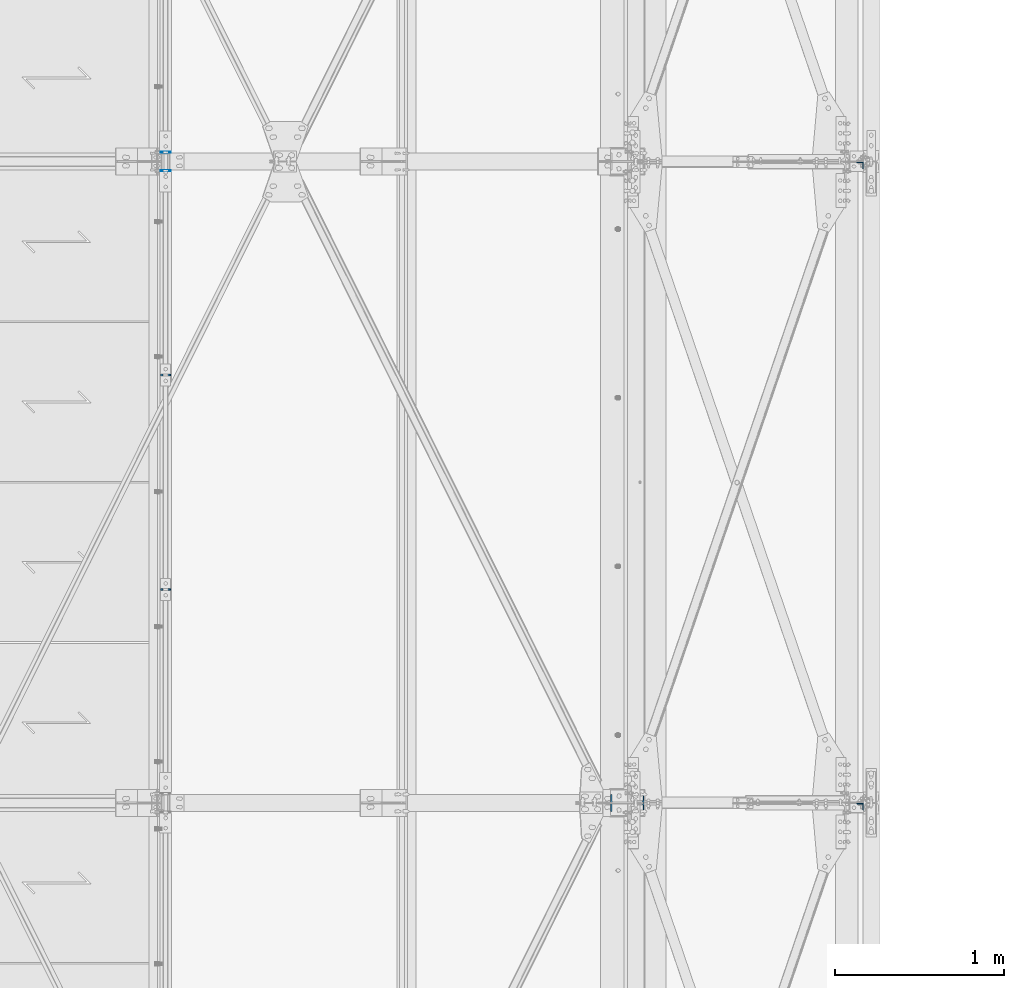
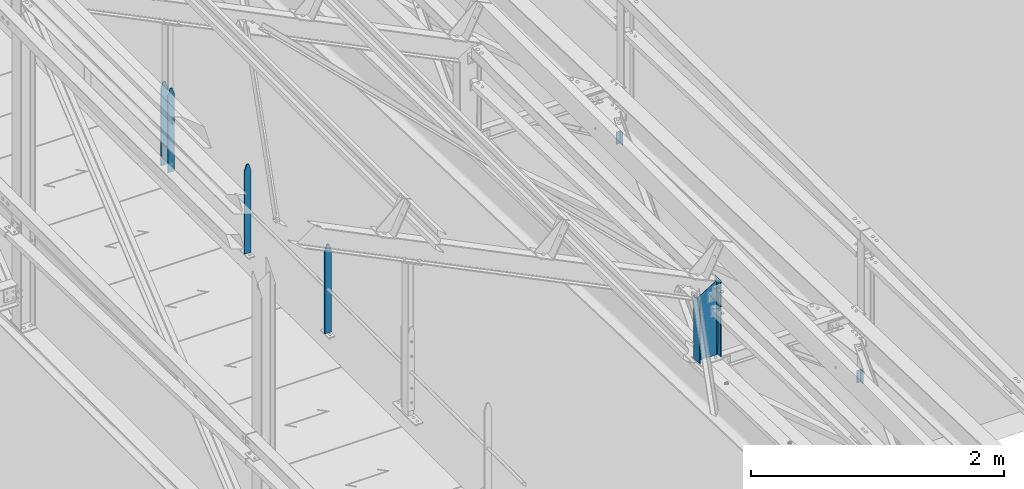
# One storey, part 38 of 362: 7 columns, 5 elements without a shape of their own.
"""IFC2X3 building model written with IfcOpenShell, lengths in millimetres."""

from ifc_helpers import new_model, si_unit, frame, origin_with_axes, origin_2d_with_axis, place, context, subcontext, project, spatial, rectangle, i_section, l_section, extrude, clip, halfspace, material, type_object, element, aggregate, save


model = new_model("IFC2X3")

# Units and contexts
model_context = context("Model", 3, precision=1e-05, world=origin_with_axes())
body_context = subcontext(model_context, "Body", "Model", "MODEL_VIEW")
ifc_project = project(units=[si_unit("LENGTHUNIT", "METRE", prefix="MILLI"), si_unit("AREAUNIT", "SQUARE_METRE"), si_unit("VOLUMEUNIT", "CUBIC_METRE"), si_unit("MASSUNIT", "GRAM", prefix="KILO"), si_unit("TIMEUNIT", "SECOND"), si_unit("PLANEANGLEUNIT", "RADIAN"), si_unit("SOLIDANGLEUNIT", "STERADIAN"), si_unit("THERMODYNAMICTEMPERATUREUNIT", "DEGREE_CELSIUS"), si_unit("LUMINOUSINTENSITYUNIT", "LUMEN")], contexts=[model_context])

# Site, building, storey
site_placement = place(None, origin_with_axes())
site = spatial("IfcSite", under=ifc_project, at=site_placement, Name="Undefined", CompositionType="ELEMENT")
building_placement = place(site_placement, origin_with_axes())
building = spatial("IfcBuilding", under=site, at=building_placement, Name="Undefined", CompositionType="ELEMENT")
storey_placement = place(building_placement, origin_with_axes())
storey = spatial("IfcBuildingStorey", under=building, at=storey_placement, Name="Undefined", CompositionType="ELEMENT", Elevation=0.0)

# Assembly, columns
assembly_1_placement = place(storey_placement, origin_with_axes())
assembly_1 = element("IfcElementAssembly", 1, at=assembly_1_placement, inside=storey, Name="MAIN COURANTE", AssemblyPlace="NOTDEFINED", PredefinedType="NOTDEFINED")
ifc_material_1 = material(Name="Undefined/S235-E24")
column_type_1 = type_object("IfcColumnType", Name="PL10*60", PredefinedType="NOTDEFINED")
column_1_placement = place(assembly_1_placement, frame((35593.9917177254, 8865.00343196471, 8250.00000282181), z_axis=(0.0, 0.0, 1.0), x_axis=(1.0, 0.0, 0.0)))
column_1 = element("IfcColumn", 2, at=column_1_placement, type_object=column_type_1, material=ifc_material_1, Name="MONTANT", ObjectType="PL10*60", context=body_context, shape_type="Clipping", body=[
    clip(clip(extrude(rectangle(XDim=10.0, YDim=60.0, at=origin_2d_with_axis()), frame((0.0, 0.0, 857.599997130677), z_axis=(0.0, 0.0, -1.0), x_axis=(0.0, 1.0, 0.0)), (0.0, 0.0, 1.0), 857.6), halfspace(frame((30.0000001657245, -5.000000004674, 797.599997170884), z_axis=(0.948683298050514, 0.0, 0.316227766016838), x_axis=(-0.316227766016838, 0.0, 0.948683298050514)), False)), halfspace(frame((-29.9999998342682, 4.99999999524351, 797.599997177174), z_axis=(-0.948683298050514, 0.0, 0.316227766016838), x_axis=(0.316227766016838, 0.0, 0.948683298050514)), False)),
])
column_2_placement = place(assembly_1_placement, frame((35593.99171878, 10135.0034319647, 8250.00000195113), z_axis=(0.0, 0.0, 1.0), x_axis=(1.0, 0.0, 0.0)))
column_2 = element("IfcColumn", 3, at=column_2_placement, type_object=column_type_1, material=ifc_material_1, Name="MONTANT", ObjectType="PL10*60", context=body_context, shape_type="Clipping", body=[
    clip(clip(extrude(rectangle(XDim=10.0, YDim=60.0, at=origin_2d_with_axis()), frame((0.0, 0.0, 857.599997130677), z_axis=(0.0, 0.0, -1.0), x_axis=(0.0, 1.0, 0.0)), (0.0, 0.0, 1.0), 857.6), halfspace(frame((30.0000001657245, -5.000000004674, 797.599997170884), z_axis=(0.948683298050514, 0.0, 0.316227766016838), x_axis=(-0.316227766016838, 0.0, 0.948683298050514)), False)), halfspace(frame((-29.9999998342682, 4.99999999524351, 797.599997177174), z_axis=(-0.948683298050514, 0.0, 0.316227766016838), x_axis=(0.316227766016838, 0.0, 0.948683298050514)), False)),
])

# Assembly, column
assembly_2_placement = place(storey_placement, origin_with_axes())
assembly_2 = element("IfcElementAssembly", 4, at=assembly_2_placement, inside=storey, Name="MAIN COURANTE", AssemblyPlace="NOTDEFINED", PredefinedType="NOTDEFINED")
column_type_2 = type_object("IfcColumnType", Name="PL5*60", PredefinedType="NOTDEFINED")
column_3_placement = place(assembly_2_placement, frame((35593.9917197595, 11454.9999937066, 8300.00000102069), z_axis=(0.0, 0.0, 1.0), x_axis=(1.0, 0.0, 0.0)))
column_3 = element("IfcColumn", 5, at=column_3_placement, type_object=column_type_2, material=ifc_material_1, Name="MONTANT", ObjectType="PL5*60", context=body_context, shape_type="Clipping", body=[
    clip(clip(extrude(rectangle(XDim=5.0, YDim=60.0, at=origin_2d_with_axis()), frame((0.0, 0.0, 807.599997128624), z_axis=(0.0, 0.0, -1.0), x_axis=(0.0, 1.0, 0.0)), (0.0, 0.0, 1.0), 807.6), halfspace(frame((29.9999999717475, -5.00000000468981, 747.599997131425), z_axis=(0.948683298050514, 0.0, 0.316227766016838), x_axis=(-0.316227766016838, 0.0, 0.948683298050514)), False)), halfspace(frame((-30.000000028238, 4.99999999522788, 747.599997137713), z_axis=(-0.948683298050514, 0.0, 0.316227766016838), x_axis=(0.316227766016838, 0.0, 0.948683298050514)), False)),
])
aggregate(assembly_2, [column_3])

# Column
column_4_placement = place(assembly_1_placement, frame((35593.9917196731, 11344.9999937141, 8300.00000109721), z_axis=(0.0, 0.0, 1.0), x_axis=(1.0, 0.0, 0.0)))
column_4 = element("IfcColumn", 6, at=column_4_placement, type_object=column_type_2, material=ifc_material_1, Name="MONTANT", ObjectType="PL5*60", context=body_context, shape_type="Clipping", body=[
    clip(clip(extrude(rectangle(XDim=5.0, YDim=60.0, at=origin_2d_with_axis()), frame((0.0, 0.0, 807.599997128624), z_axis=(0.0, 0.0, -1.0), x_axis=(0.0, 1.0, 0.0)), (0.0, 0.0, 1.0), 807.6), halfspace(frame((29.9999999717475, -5.00000000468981, 747.599997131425), z_axis=(0.948683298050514, 0.0, 0.316227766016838), x_axis=(-0.316227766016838, 0.0, 0.948683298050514)), False)), halfspace(frame((-30.000000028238, 4.99999999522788, 747.599997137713), z_axis=(-0.948683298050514, 0.0, 0.316227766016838), x_axis=(0.316227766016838, 0.0, 0.948683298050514)), False)),
])

aggregate(assembly_1, [column_1, column_4, column_2])

# Assembly, column
assembly_3_placement = place(storey_placement, origin_with_axes())
assembly_3 = element("IfcElementAssembly", 7, at=assembly_3_placement, inside=storey, AssemblyPlace="NOTDEFINED", PredefinedType="NOTDEFINED")
column_type_3 = type_object("IfcColumnType", Name="L40*4", PredefinedType="NOTDEFINED")
column_5_placement = place(assembly_3_placement, frame((39709.0000003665, 11376.9999999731, 7100.00000925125), z_axis=(0.0, 0.0, 1.0), x_axis=(-1.0, 0.0, 0.0)))
column_5 = element("IfcColumn", 8, at=column_5_placement, type_object=column_type_3, material=ifc_material_1, Name="ATTACHE", ObjectType="L40*4", context=body_context, shape_type="SweptSolid", body=[
    extrude(l_section(Depth=40.0, Width=40.0, Thickness=4.0, FilletRadius=6.0, EdgeRadius=3.0, at=origin_2d_with_axis()), frame((0.0, 0.0, 120.0), z_axis=(0.0, 0.0, -1.0), x_axis=(0.0, 1.0, 0.0)), (0.0, 0.0, 1.0), 120.0),
])
aggregate(assembly_3, [column_5])

assembly_4_placement = place(storey_placement, origin_with_axes())
assembly_4 = element("IfcElementAssembly", 9, at=assembly_4_placement, inside=storey, AssemblyPlace="NOTDEFINED", PredefinedType="NOTDEFINED")
column_6_placement = place(assembly_4_placement, frame((39709.0000003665, 7577.0, 7100.00000925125), z_axis=(0.0, 0.0, 1.0), x_axis=(-1.0, 0.0, 0.0)))
column_6 = element("IfcColumn", 10, at=column_6_placement, type_object=column_type_3, material=ifc_material_1, Name="ATTACHE", ObjectType="L40*4", context=body_context, shape_type="SweptSolid", body=[
    extrude(l_section(Depth=40.0, Width=40.0, Thickness=4.0, FilletRadius=6.0, EdgeRadius=3.0, at=origin_2d_with_axis()), frame((0.0, 0.0, 120.0), z_axis=(0.0, 0.0, -1.0), x_axis=(0.0, 1.0, 0.0)), (0.0, 0.0, 1.0), 120.0),
])
aggregate(assembly_4, [column_6])

assembly_5_placement = place(storey_placement, origin_with_axes())
assembly_5 = element("IfcElementAssembly", 11, at=assembly_5_placement, inside=storey, Name="TRAVERSE SHED", AssemblyPlace="NOTDEFINED", PredefinedType="NOTDEFINED")
ifc_material_2 = material(Name="Undefined/S275-E28")
column_type_4 = type_object("IfcColumnType", Name="IPE200", PredefinedType="NOTDEFINED")
column_7_placement = place(assembly_5_placement, frame((38330.0, 7600.0, 7811.16133145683), z_axis=(0.0, 0.0, 1.0), x_axis=(-1.0, 0.0, 0.0)))
column_7 = element("IfcColumn", 12, at=column_7_placement, type_object=column_type_4, material=ifc_material_2, Name="TRAVERSE SHED", ObjectType="IPE200", context=body_context, shape_type="Clipping", body=[
    clip(clip(extrude(i_section(OverallWidth=100.0, OverallDepth=200.0, WebThickness=5.599999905, FlangeThickness=8.5, FilletRadius=12.0, at=origin_2d_with_axis()), frame((0.0, 0.0, 741.048365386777), z_axis=(0.0, 0.0, -1.0), x_axis=(0.0, 1.0, 0.0)), (0.0, 0.0, 1.0), 795.52), halfspace(frame((100.0, 7600.0, 614.305572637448), z_axis=(-0.528573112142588, 0.0, -0.848887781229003), x_axis=(0.0, 1.0, 0.0)), True)), halfspace(frame((0.0, -64.1536601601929, 7.98881895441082), z_axis=(0.0, 0.031410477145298, -0.999506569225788), x_axis=(1.0, 0.0, 0.0)), False)),
])
aggregate(assembly_5, [column_7])

save(model, "model.ifc")
